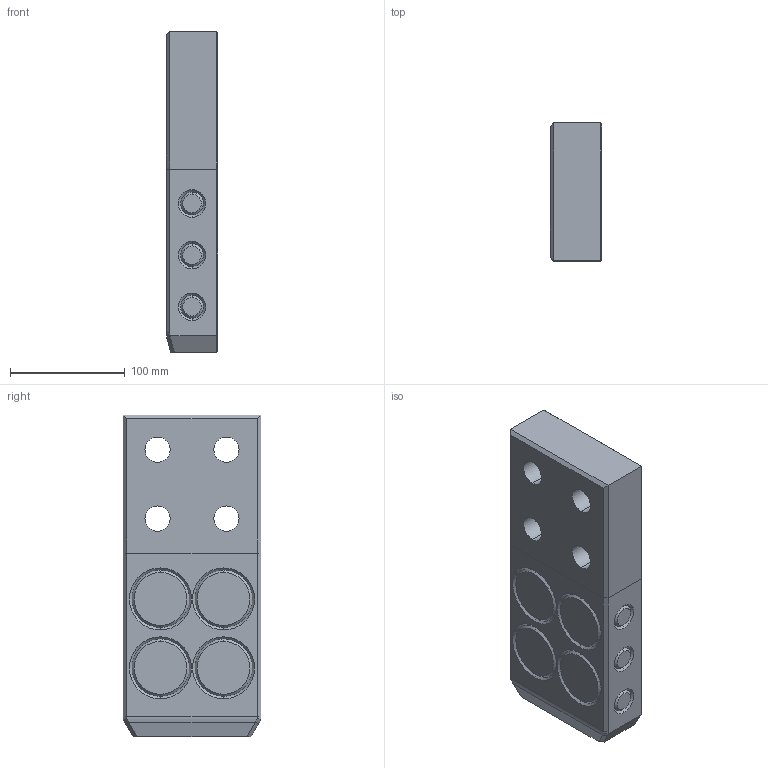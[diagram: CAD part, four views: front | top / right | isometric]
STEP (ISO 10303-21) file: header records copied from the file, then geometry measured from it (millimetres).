
FILE_DESCRIPTION((''),'2;1');
FILE_NAME('','2010-08-30T18:27:02+09:00',('misumi'),(''),'M/STEP i/f 1R2-14','CADmeister v5.1','');
FILE_SCHEMA(('AUTOMOTIVE_DESIGN'));
Length unit declared in the file: millimetre
Products named in the file (1): OG120-280
Bounding box: 45 x 120 x 280 mm (x, y, z)
Volume: 1423583.4 mm3; surface area: 112456.2 mm2
Topology: 1 solids, 1 shells, 91 faces, 198 edges, 120 vertices
Faces by surface type: cone 40, plane 36, cylinder 11, bspline 4
Entity records: 3450 total; most frequent: CARTESIAN_POINT 1370, DIRECTION 416, ORIENTED_EDGE 396, EDGE_CURVE 198, AXIS2_PLACEMENT_3D 156, VERTEX_POINT 120, EDGE_LOOP 110, LINE 104
